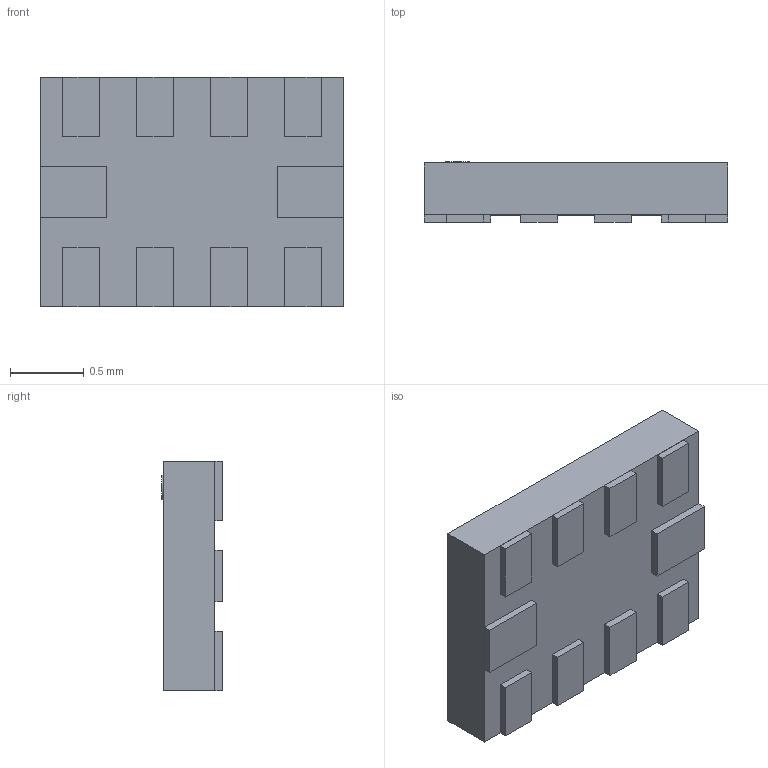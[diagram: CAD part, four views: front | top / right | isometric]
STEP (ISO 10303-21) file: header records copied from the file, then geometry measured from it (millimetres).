
FILE_DESCRIPTION(/* description */ ('','CAx-IF Rec.Pracs.---Representation and Presentation of Product Manufacturing Information (PMI)---4.0---2014-10-13'),/* implementation_level */ '2;1');
FILE_NAME(/* name */ 'UQFN10.step',/* time_stamp */ '2025-03-30T16:46:56+02:00',/* author */ (''),/* organization */ (''),/* preprocessor_version */ 'ST-DEVELOPER v20',/* originating_system */ 'Autodesk Translation Framework v13.20.0.188',/* authorisation */ '');
FILE_SCHEMA (('AP242_MANAGED_MODEL_BASED_3D_ENGINEERING_MIM_LF { 1 0 10303 442 1 1 4 }'));
Length unit declared in the file: millimetre
Products named in the file (2): UQFN10; pads
Assembly tree (1 placements, depth 2):
  UQFN10
    pads
Bounding box: 2.05 x 0.41 x 1.55 mm (x, y, z)
Volume: 1.2 mm3; surface area: 11.8 mm2
Topology: 12 solids, 12 shells, 69 faces, 135 edges, 90 vertices
Faces by surface type: plane 68, cylinder 1
Full cylindrical faces by diameter (mm): 0.165 x1
Entity records: 1789 total; most frequent: CARTESIAN_POINT 297, DIRECTION 281, ORIENTED_EDGE 270, EDGE_CURVE 135, LINE 133, VECTOR 133, VERTEX_POINT 90, AXIS2_PLACEMENT_3D 74
